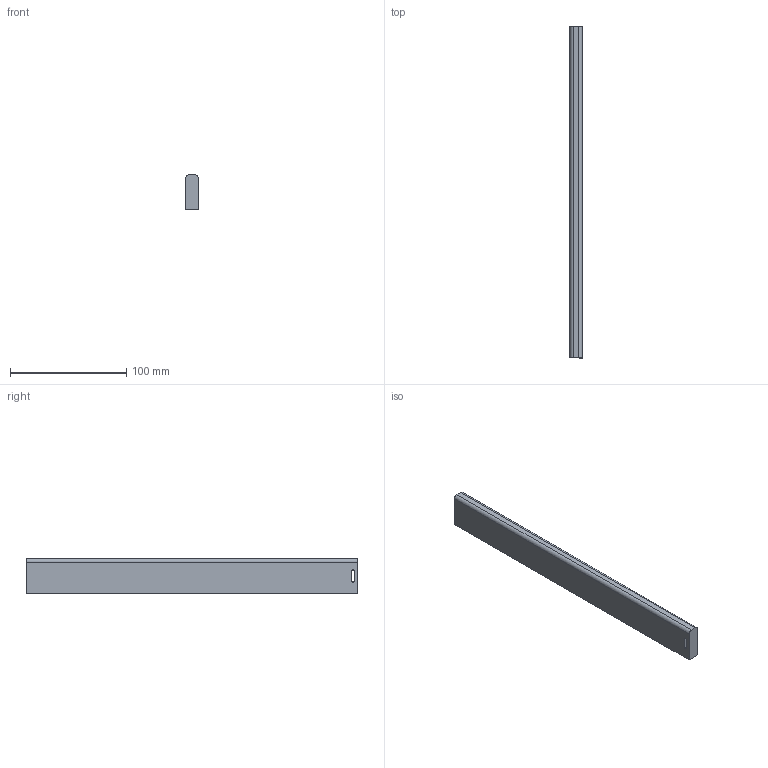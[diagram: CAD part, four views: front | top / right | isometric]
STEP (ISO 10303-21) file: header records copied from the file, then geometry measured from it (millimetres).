
FILE_DESCRIPTION (( 'STEP AP214' ), '1' );
FILE_NAME ('_Seitenreling_S760605500_RL285,5.step', '2010-09-06T14:51:25', ( 'grass' ), ( '' ), 'SwSTEP 2.0', 'SolidWorks 2010', '' );
FILE_SCHEMA (( 'AUTOMOTIVE_DESIGN' ));
Length unit declared in the file: millimetre
Products named in the file (1): _Seitenreling_S760605500_RL285,5
Bounding box: 10.5 x 285.5 x 30 mm (x, y, z)
Volume: 88591 mm3; surface area: 23224.7 mm2
Topology: 1 solids, 1 shells, 12 faces, 30 edges, 20 vertices
Faces by surface type: plane 8, cylinder 4
Entity records: 400 total; most frequent: DIRECTION 64, CARTESIAN_POINT 63, ORIENTED_EDGE 60, EDGE_CURVE 30, VECTOR 22, LINE 22, AXIS2_PLACEMENT_3D 21, VERTEX_POINT 20
